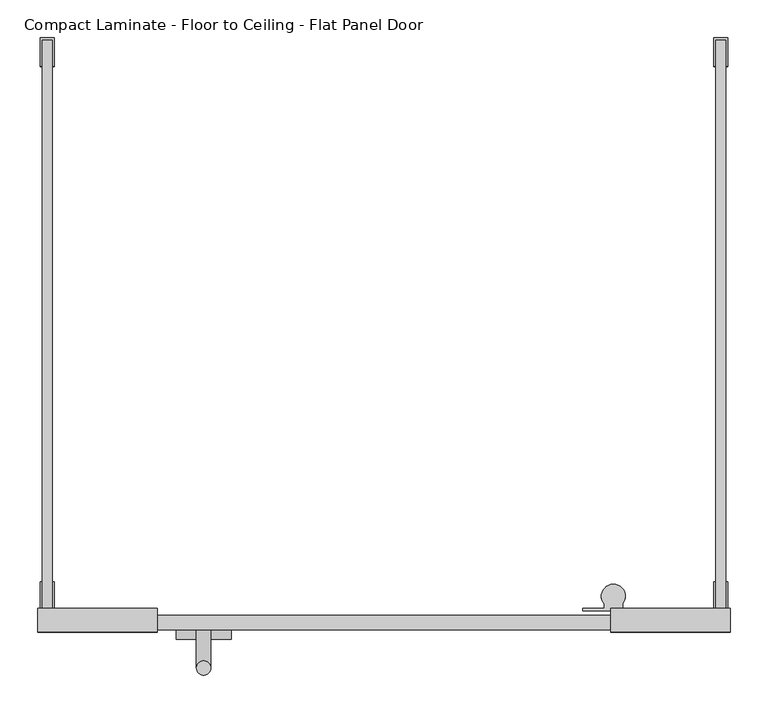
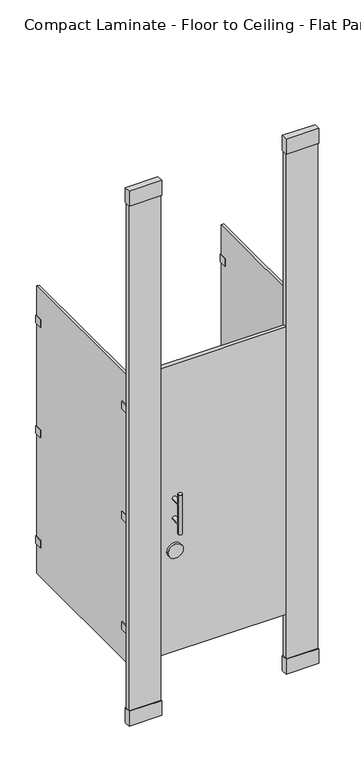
"""IFC4 building model written with IfcOpenShell, lengths in millimetres: proxy geometry, Toilet-Partition_Ironwood-Mfg_Compact-Laminate : Compact Laminate - Floor to Ceiling - Flat Panel Door."""

from ifc_helpers import new_model, si_unit, point, frame, frame_2d, origin, origin_with_axes, place, context, project, spatial, polyline, circle_curve, ellipse_curve, trimmed, segment, composite_curve, outline, extrude, source, transform, mapped, element, save
from ifc_brep_helpers import plane_surface, cylinder_surface, advanced_brep


def compact_laminate_floor_to_ceiling_flat_panel_door_64829fb1(model_context):
    return source(origin(), model_context, "Body", "SolidModel", [
        extrude(outline(polyline([(542.925, -790.575), (542.925, -758.825), (701.675, -758.825), (701.675, -790.575), (542.925, -790.575)])), frame((0.0, 0.0, 2667.0), z_axis=(0.0, 0.0, 1.0), x_axis=(1.0, 0.0, 0.0)), (0.0, 0.0, 1.0), 76.1999999),
        extrude(outline(polyline([(701.675, -758.825), (701.675, -790.575), (542.925, -790.575), (542.925, -758.825), (701.675, -758.825)])), origin_with_axes(), (0.0, 0.0, 1.0), 76.2),
        extrude(outline(polyline([(698.5, -762.0), (698.5, -787.4), (546.1, -787.4), (546.1, -762.0), (698.5, -762.0)])), origin_with_axes(), (0.0, 0.0, 1.0), 2667.0),
        extrude(outline(polyline([(-60.325, -790.575), (-219.075, -790.575), (-219.075, -758.825), (-60.325, -758.825), (-60.325, -790.575)])), frame((0.0, 0.0, 2667.0), z_axis=(0.0, 0.0, 1.0), x_axis=(1.0, 0.0, 0.0)), (0.0, 0.0, 1.0), 76.1999999),
        extrude(outline(polyline([(-219.075, -758.825), (-60.325, -758.825), (-60.325, -790.575), (-219.075, -790.575), (-219.075, -758.825)])), origin_with_axes(), (0.0, 0.0, 1.0), 76.2),
        extrude(outline(polyline([(-215.9, -762.0), (-63.5, -762.0), (-63.5, -787.4), (-215.9, -787.4), (-215.9, -762.0)])), origin_with_axes(), (0.0, 0.0, 1.0), 2667.0),
        extrude(outline(polyline([(546.1, -787.4), (-63.5, -787.4), (-63.5, -768.35), (546.1, -768.35), (546.1, -787.4)])), frame((0.0, 0.0, 304.8), z_axis=(0.0, 0.0, 1.0), x_axis=(1.0, 0.0, 0.0)), (0.0, 0.0, 1.0), 1473.2),
        extrude(outline(composite_curve([segment(trimmed(circle_curve(frame_2d((827.0875, 1.5875)), 36.5125), [point((827.0875, -34.925))], [point((827.0875, 38.1))], False, "CARTESIAN"), True, "CONTINUOUS"), segment(trimmed(circle_curve(frame_2d((827.0875, 1.5875)), 36.5125), [point((827.0875, 38.1))], [point((827.0875, -34.925))], False, "CARTESIAN"), True, "CONTINUOUS")], self_intersect=False)), frame((0.0, -800.1, 0.0), z_axis=(0.0, 1.0, 0.0), x_axis=(0.0, 0.0, 1.0)), (0.0, 0.0, 1.0), 12.7),
        advanced_brep(
        [(-7.9375, -787.4, 1092.2), (11.1125, -787.4, 1092.2), (-7.9375, -787.4, 990.6), (11.1125, -787.4, 990.6), (11.1125, -838.2, 1092.2), (-7.9375, -838.2, 1092.2), (11.1125, -838.2, 990.6), (-7.9375, -838.2, 990.6), (-7.9375, -838.2, 1143.0), (11.1125, -838.2, 1143.0), (-7.9375, -838.2, 939.8), (11.1125, -838.2, 939.8)],
        [
            (0, 1, circle_curve(frame((1.5875, -787.4, 1092.2), z_axis=(0.0, 1.0, 0.0), x_axis=(1.0, 0.0, 0.0)), 9.525)),
            (1, 0, circle_curve(frame((1.5875, -787.4, 1092.2), z_axis=(0.0, 1.0, 0.0), x_axis=(1.0, 0.0, 0.0)), 9.525)),
            (2, 3, circle_curve(frame((1.5875, -787.4, 990.6), z_axis=(0.0, 1.0, 0.0), x_axis=(1.0, 0.0, 0.0)), 9.525)),
            (3, 2, circle_curve(frame((1.5875, -787.4, 990.6), z_axis=(0.0, 1.0, 0.0), x_axis=(1.0, 0.0, 0.0)), 9.525)),
            (1, 4),
            (4, 5, ellipse_curve(frame((1.5875, -838.2, 1092.2), z_axis=(0.0, 0.7071067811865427, 0.7071067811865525), x_axis=(0.0, -0.7071067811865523, 0.7071067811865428)), 13.4703842, 9.525)),
            (5, 0),
            (5, 4, ellipse_curve(frame((1.5875, -838.2, 1092.2), z_axis=(0.0, 0.7071067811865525, -0.7071067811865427), x_axis=(0.0, -0.7071067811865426, -0.7071067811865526)), 13.4703842, 9.525)),
            (3, 6),
            (6, 7, ellipse_curve(frame((1.5875, -838.2, 990.6), z_axis=(0.0, 0.7071067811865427, 0.7071067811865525), x_axis=(0.0, -0.7071067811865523, 0.7071067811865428)), 13.4703842, 9.525)),
            (7, 2),
            (7, 6, ellipse_curve(frame((1.5875, -838.2, 990.6), z_axis=(0.0, 0.7071067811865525, -0.7071067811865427), x_axis=(0.0, -0.7071067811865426, -0.7071067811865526)), 13.4703842, 9.525)),
            (8, 9, circle_curve(frame((1.5875, -838.2, 1143.0), z_axis=(0.0, 0.0, 1.0), x_axis=(1.0, 0.0, 0.0)), 9.525)),
            (9, 8, circle_curve(frame((1.5875, -838.2, 1143.0), z_axis=(0.0, 0.0, 1.0), x_axis=(1.0, 0.0, 0.0)), 9.525)),
            (10, 11, circle_curve(frame((1.5875, -838.2, 939.8), z_axis=(0.0, 0.0, -1.0), x_axis=(1.0, 0.0, 0.0)), 9.525)),
            (11, 10, circle_curve(frame((1.5875, -838.2, 939.8), z_axis=(0.0, 0.0, -1.0), x_axis=(1.0, 0.0, 0.0)), 9.525)),
            (8, 5),
            (5, 7),
            (7, 10),
            (11, 6),
            (6, 4),
            (4, 9),
        ],
        [
            plane_surface(frame((11.1125, -787.4, 1092.2), z_axis=(0.0, 1.0, 0.0), x_axis=(0.0, 0.0, -1.0))),
            cylinder_surface(frame((1.5875, -787.4, 1092.2), z_axis=(0.0, -1.0, 0.0), x_axis=(1.0, 0.0, 0.0)), 9.525),
            cylinder_surface(frame((1.5875, -787.4, 990.6), z_axis=(0.0, -1.0, 0.0), x_axis=(1.0, 0.0, 0.0)), 9.525),
            plane_surface(frame((11.1125, -838.2, 1143.0), z_axis=(0.0, 0.0, 1.0), x_axis=(0.0, 1.0, 0.0))),
            plane_surface(frame((11.1125, -838.2, 939.8), z_axis=(0.0, 0.0, -1.0), x_axis=(0.0, -1.0, 0.0))),
            cylinder_surface(frame((1.5875, -838.2, 939.8), z_axis=(0.0, 0.0, 1.0), x_axis=(1.0, 0.0, 0.0)), 9.525),
        ],
        [
            (0, [[1, 2]]),
            (0, [[3, 4]]),
            (1, [[-2, 5, 6, 7]]),
            (1, [[-1, -7, 8, -5]]),
            (2, [[-4, 9, 10, 11]]),
            (2, [[-3, -11, 12, -9]]),
            (3, [[13, 14]]),
            (4, [[15, 16]]),
            (5, [[-13, 17, 18, 19, -16, 20, 21, 22]]),
            (5, [[-14, -22, -8, -17]]),
            (5, [[-15, -19, -10, -20]]),
            (5, [[-18, -6, -21, -12]]),
        ],
    ),
        extrude(outline(composite_curve([segment(polyline([(581.3737081, -762.0), (505.1737081, -762.0), (505.1737081, -758.825), (533.7487081, -758.825), (533.7487081, -752.9581331)]), True, "CONTINUOUS"), segment(trimmed(circle_curve(frame_2d((546.1, -742.8902139)), 15.9347861), [point((533.7487081, -752.9581331))], [point((558.4512919, -752.9581331))], False, "CARTESIAN"), True, "CONTINUOUS"), segment(polyline([(558.4512919, -752.9581331), (558.4512919, -758.825), (581.3737081, -758.825), (581.3737081, -762.0)]), True, "CONTINUOUS")], self_intersect=False)), frame((0.0, 0.0, 1574.8), z_axis=(0.0, 0.0, 1.0), x_axis=(1.0, 0.0, 0.0)), (0.0, 0.0, 1.0), 63.5),
        extrude(outline(composite_curve([segment(polyline([(581.3737081, -762.0), (505.1737081, -762.0), (505.1737081, -758.825), (533.7487081, -758.825), (533.7487081, -752.9581331)]), True, "CONTINUOUS"), segment(trimmed(circle_curve(frame_2d((546.1, -742.8902139)), 15.9347861), [point((533.7487081, -752.9581331))], [point((558.4512919, -752.9581331))], False, "CARTESIAN"), True, "CONTINUOUS"), segment(polyline([(558.4512919, -752.9581331), (558.4512919, -758.825), (581.3737081, -758.825), (581.3737081, -762.0)]), True, "CONTINUOUS")], self_intersect=False)), frame((0.0, 0.0, 1009.6500001), z_axis=(0.0, 0.0, 1.0), x_axis=(1.0, 0.0, 0.0)), (0.0, 0.0, 1.0), 63.5),
        extrude(outline(composite_curve([segment(polyline([(581.3737081, -762.0), (505.1737081, -762.0), (505.1737081, -758.825), (533.7487081, -758.825), (533.7487081, -752.9581331)]), True, "CONTINUOUS"), segment(trimmed(circle_curve(frame_2d((546.1, -742.8902139)), 15.9347861), [point((533.7487081, -752.9581331))], [point((558.4512919, -752.9581331))], False, "CARTESIAN"), True, "CONTINUOUS"), segment(polyline([(558.4512919, -752.9581331), (558.4512919, -758.825), (581.3737081, -758.825), (581.3737081, -762.0)]), True, "CONTINUOUS")], self_intersect=False)), frame((0.0, 0.0, 444.5), z_axis=(0.0, 0.0, 1.0), x_axis=(1.0, 0.0, 0.0)), (0.0, 0.0, 1.0), 63.5),
        extrude(outline(polyline([(682.498, -723.9), (682.498, -758.825), (695.198, -758.825), (695.198, -723.9), (698.373, -723.9), (698.373, -762.0), (679.323, -762.0), (679.323, -723.9), (682.498, -723.9)])), frame((0.0, 0.0, 1587.8188137), z_axis=(0.0, 0.0, 1.0), x_axis=(1.0, 0.0, 0.0)), (0.0, 0.0, 1.0), 38.1),
        extrude(outline(polyline([(682.498, -38.1), (679.323, -38.1), (679.323, 0.0), (698.373, 0.0), (698.373, -38.1), (695.198, -38.1), (695.198, -3.175), (682.498, -3.175), (682.498, -38.1)])), frame((0.0, 0.0, 1587.8188137), z_axis=(0.0, 0.0, 1.0), x_axis=(1.0, 0.0, 0.0)), (0.0, 0.0, 1.0), 38.1),
        extrude(outline(polyline([(682.498, -723.9), (682.498, -758.825), (695.198, -758.825), (695.198, -723.9), (698.373, -723.9), (698.373, -762.0), (679.323, -762.0), (679.323, -723.9), (682.498, -723.9)])), frame((0.0, 0.0, 1022.35), z_axis=(0.0, 0.0, 1.0), x_axis=(1.0, 0.0, 0.0)), (0.0, 0.0, 1.0), 38.1),
        extrude(outline(polyline([(682.498, -38.1), (679.323, -38.1), (679.323, 0.0), (698.373, 0.0), (698.373, -38.1), (695.198, -38.1), (695.198, -3.175), (682.498, -3.175), (682.498, -38.1)])), frame((0.0, 0.0, 1022.35), z_axis=(0.0, 0.0, 1.0), x_axis=(1.0, 0.0, 0.0)), (0.0, 0.0, 1.0), 38.1),
        extrude(outline(polyline([(682.498, -723.9), (682.498, -758.825), (695.198, -758.825), (695.198, -723.9), (698.373, -723.9), (698.373, -762.0), (679.323, -762.0), (679.323, -723.9), (682.498, -723.9)])), frame((0.0, 0.0, 457.2), z_axis=(0.0, 0.0, 1.0), x_axis=(1.0, 0.0, 0.0)), (0.0, 0.0, 1.0), 38.1),
        extrude(outline(polyline([(682.498, -38.1), (679.323, -38.1), (679.323, 0.0), (698.373, 0.0), (698.373, -38.1), (695.198, -38.1), (695.198, -3.175), (682.498, -3.175), (682.498, -38.1)])), frame((0.0, 0.0, 457.2), z_axis=(0.0, 0.0, 1.0), x_axis=(1.0, 0.0, 0.0)), (0.0, 0.0, 1.0), 38.1),
        extrude(outline(polyline([(-212.598, -723.9), (-212.598, -758.825), (-199.898, -758.825), (-199.898, -723.9), (-196.723, -723.9), (-196.723, -762.0), (-215.773, -762.0), (-215.773, -723.9), (-212.598, -723.9)])), frame((0.0, 0.0, 1587.8188137), z_axis=(0.0, 0.0, 1.0), x_axis=(1.0, 0.0, 0.0)), (0.0, 0.0, 1.0), 38.1),
        extrude(outline(polyline([(-212.598, -38.1), (-215.773, -38.1), (-215.773, 0.0), (-196.723, 0.0), (-196.723, -38.1), (-199.898, -38.1), (-199.898, -3.175), (-212.598, -3.175), (-212.598, -38.1)])), frame((0.0, 0.0, 1587.8188137), z_axis=(0.0, 0.0, 1.0), x_axis=(1.0, 0.0, 0.0)), (0.0, 0.0, 1.0), 38.1),
        extrude(outline(polyline([(-212.598, -723.9), (-212.598, -758.825), (-199.898, -758.825), (-199.898, -723.9), (-196.723, -723.9), (-196.723, -762.0), (-215.773, -762.0), (-215.773, -723.9), (-212.598, -723.9)])), frame((0.0, 0.0, 1022.35), z_axis=(0.0, 0.0, 1.0), x_axis=(1.0, 0.0, 0.0)), (0.0, 0.0, 1.0), 38.1),
        extrude(outline(polyline([(-212.598, -38.1), (-215.773, -38.1), (-215.773, 0.0), (-196.723, 0.0), (-196.723, -38.1), (-199.898, -38.1), (-199.898, -3.175), (-212.598, -3.175), (-212.598, -38.1)])), frame((0.0, 0.0, 1022.35), z_axis=(0.0, 0.0, 1.0), x_axis=(1.0, 0.0, 0.0)), (0.0, 0.0, 1.0), 38.1),
        extrude(outline(polyline([(-212.598, -723.9), (-212.598, -758.825), (-199.898, -758.825), (-199.898, -723.9), (-196.723, -723.9), (-196.723, -762.0), (-215.773, -762.0), (-215.773, -723.9), (-212.598, -723.9)])), frame((0.0, 0.0, 457.2), z_axis=(0.0, 0.0, 1.0), x_axis=(1.0, 0.0, 0.0)), (0.0, 0.0, 1.0), 38.1),
        extrude(outline(polyline([(-212.598, -38.1), (-215.773, -38.1), (-215.773, 0.0), (-196.723, 0.0), (-196.723, -38.1), (-199.898, -38.1), (-199.898, -3.175), (-212.598, -3.175), (-212.598, -38.1)])), frame((0.0, 0.0, 457.2), z_axis=(0.0, 0.0, 1.0), x_axis=(1.0, 0.0, 0.0)), (0.0, 0.0, 1.0), 38.1),
        extrude(outline(polyline([(-199.898, -3.175), (-199.898, -758.825), (-212.598, -758.825), (-212.598, -3.175), (-199.898, -3.175)])), frame((0.0, 0.0, 304.8), z_axis=(0.0, 0.0, 1.0), x_axis=(1.0, 0.0, 0.0)), (0.0, 0.0, 1.0), 1473.2),
        extrude(outline(polyline([(695.198, -3.175), (695.198, -758.825), (682.498, -758.825), (682.498, -3.175), (695.198, -3.175)])), frame((0.0, 0.0, 304.8), z_axis=(0.0, 0.0, 1.0), x_axis=(1.0, 0.0, 0.0)), (0.0, 0.0, 1.0), 1473.2),
    ])


if __name__ == "__main__":
    model = new_model("IFC4")
    model_context = context("Model", 3, world=origin())
    ifc_project = project(units=[si_unit("LENGTHUNIT", "METRE", prefix="MILLI")], contexts=[model_context])
    site = spatial("IfcSite", under=ifc_project)
    building = spatial("IfcBuilding", under=site)
    placement = place(None, origin())
    compact_laminate_floor_to_ceiling_flat_panel_door_shape = compact_laminate_floor_to_ceiling_flat_panel_door_64829fb1(model_context)
    element("IfcBuildingElementProxy", 1, Name="Toilet-Partition_Ironwood-Mfg_Compact-Laminate : Compact Laminate - Floor to Ceiling - Flat Panel Door", ObjectType="Toilet-Partition_Ironwood-Mfg_Compact-Laminate : Compact Laminate - Floor to Ceiling - Flat Panel Door", at=placement, inside=building, context=model_context, shape_type="MappedRepresentation", body=[
        mapped(compact_laminate_floor_to_ceiling_flat_panel_door_shape, transform((0.0, 0.0, 0.0), x_axis=(1.0, 0.0, 0.0), y_axis=(0.0, 1.0, 0.0), z_axis=(0.0, 0.0, 1.0))),
    ])
    save(model, "model.ifc")
